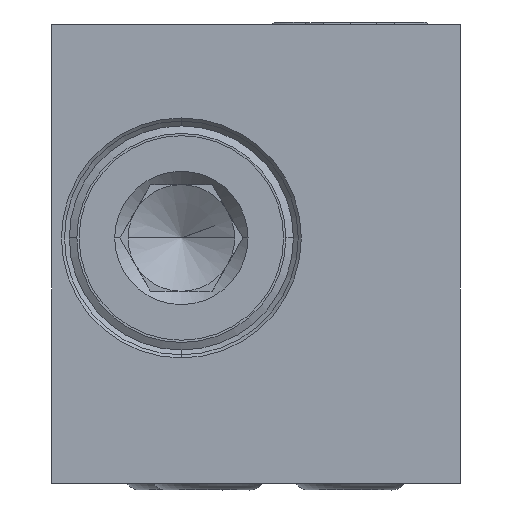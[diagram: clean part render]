
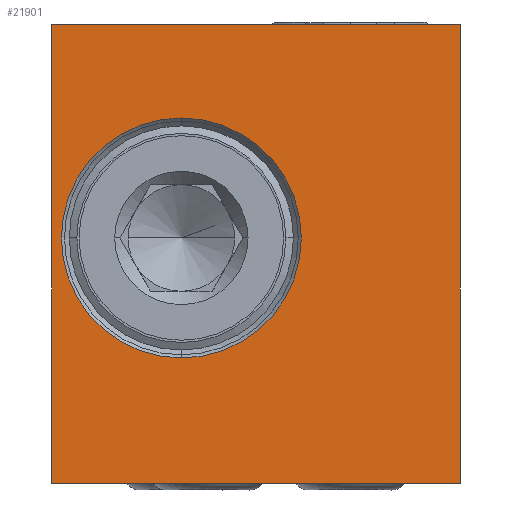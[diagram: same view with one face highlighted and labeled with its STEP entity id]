
A CAD part, left-side view. The second image highlights one B-rep face of the part: STEP entity #21901.
In plain terms, the highlighted planar face has unit normal (-1, 0, 0).
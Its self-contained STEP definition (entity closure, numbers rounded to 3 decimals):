
#4029=DIRECTION('',(0.,0.,1.));
#4030=VECTOR('',#4029,25.8);
#4031=CARTESIAN_POINT('',(-38.,11.5,-12.9));
#4032=LINE('',#4031,#4030);
#4033=DIRECTION('',(0.,-1.,0.));
#4034=VECTOR('',#4033,23.);
#4035=CARTESIAN_POINT('',(-38.,11.5,12.9));
#4036=LINE('',#4035,#4034);
#4037=DIRECTION('',(0.,0.,-1.));
#4038=VECTOR('',#4037,25.8);
#4039=CARTESIAN_POINT('',(-38.,-11.5,12.9));
#4040=LINE('',#4039,#4038);
#4041=DIRECTION('',(0.,1.,0.));
#4042=VECTOR('',#4041,23.);
#4043=CARTESIAN_POINT('',(-38.,-11.5,-12.9));
#4044=LINE('',#4043,#4042);
#4045=CARTESIAN_POINT('',(-38.,4.2,0.9));
#4046=DIRECTION('',(-1.,0.,0.));
#4047=DIRECTION('',(0.,0.,-1.));
#4048=AXIS2_PLACEMENT_3D('',#4045,#4046,#4047);
#4050=CARTESIAN_POINT('',(-38.,4.2,0.9));
#4051=DIRECTION('',(-1.,0.,0.));
#4052=DIRECTION('',(0.,0.,1.));
#4053=AXIS2_PLACEMENT_3D('',#4050,#4051,#4052);
#14995=CARTESIAN_POINT('',(-38.,11.5,12.9));
#14996=VERTEX_POINT('',#14995);
#14997=CARTESIAN_POINT('',(-38.,11.5,-12.9));
#14998=VERTEX_POINT('',#14997);
#14999=CARTESIAN_POINT('',(-38.,-11.5,12.9));
#15000=VERTEX_POINT('',#14999);
#15021=CARTESIAN_POINT('',(-38.,-11.5,-12.9));
#15022=VERTEX_POINT('',#15021);
#15067=CARTESIAN_POINT('',(-38.,4.2,-5.85));
#15068=CARTESIAN_POINT('',(-38.,4.2,7.65));
#15069=VERTEX_POINT('',#15067);
#15070=VERTEX_POINT('',#15068);
#21882=CARTESIAN_POINT('',(-38.,0.,0.));
#21883=DIRECTION('',(-1.,0.,0.));
#21884=DIRECTION('',(0.,-1.,0.));
#21885=AXIS2_PLACEMENT_3D('',#21882,#21883,#21884);
#21886=PLANE('',#21885);
#21887=ORIENTED_EDGE('',*,*,#21875,.T.);
#21888=ORIENTED_EDGE('',*,*,#19649,.T.);
#21890=ORIENTED_EDGE('',*,*,#21889,.T.);
#21892=ORIENTED_EDGE('',*,*,#21891,.T.);
#21893=EDGE_LOOP('',(#21887,#21888,#21890,#21892));
#21894=FACE_OUTER_BOUND('',#21893,.F.);
#21896=ORIENTED_EDGE('',*,*,#21895,.T.);
#21898=ORIENTED_EDGE('',*,*,#21897,.T.);
#21899=EDGE_LOOP('',(#21896,#21898));
#21900=FACE_BOUND('',#21899,.F.);
#21901=ADVANCED_FACE('',(#21894,#21900),#21886,.T.);
#4049=CIRCLE('',#4048,6.75);
#4054=CIRCLE('',#4053,6.75);
#19649=EDGE_CURVE('',#14996,#15000,#4036,.T.);
#21875=EDGE_CURVE('',#14998,#14996,#4032,.T.);
#21889=EDGE_CURVE('',#15000,#15022,#4040,.T.);
#21891=EDGE_CURVE('',#15022,#14998,#4044,.T.);
#21895=EDGE_CURVE('',#15069,#15070,#4049,.T.);
#21897=EDGE_CURVE('',#15070,#15069,#4054,.T.);
